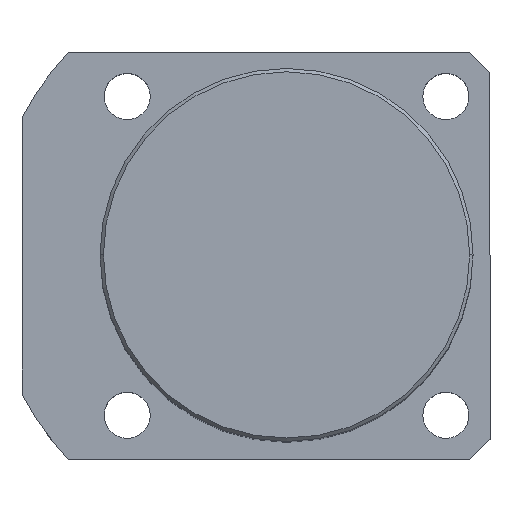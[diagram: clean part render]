
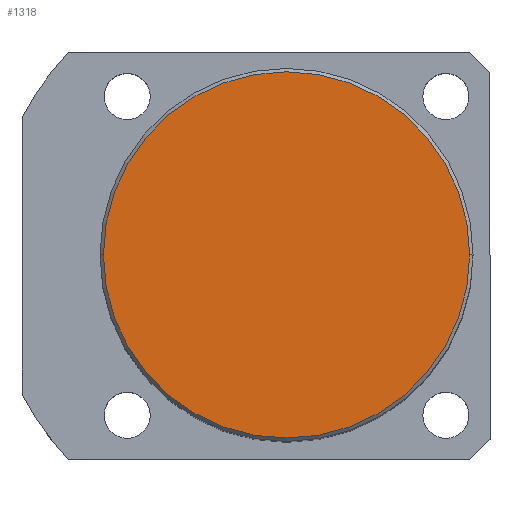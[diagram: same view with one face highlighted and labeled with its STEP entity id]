
A CAD part, top view. The second image highlights one B-rep face of the part: STEP entity #1318.
In plain terms, the highlighted planar face has unit normal (0, 0, 1).
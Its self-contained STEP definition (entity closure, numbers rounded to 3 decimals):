
#236 = EDGE_CURVE ( 'NONE', #544, #490, #595, .T. ) ;
#277 = ORIENTED_EDGE ( 'NONE', *, *, #2132, .T. ) ;
#416 = CARTESIAN_POINT ( 'NONE',  ( 27., 0., 90. ) ) ;
#438 = EDGE_LOOP ( 'NONE', ( #1749, #277 ) ) ;
#454 = AXIS2_PLACEMENT_3D ( 'NONE', #861, #1557, #1366 ) ;
#490 = VERTEX_POINT ( 'NONE', #416 ) ;
#544 = VERTEX_POINT ( 'NONE', #1141 ) ;
#595 = CIRCLE ( 'NONE', #2029, 27. ) ;
#614 = DIRECTION ( 'NONE',  ( 1., 0., 0. ) ) ;
#861 = CARTESIAN_POINT ( 'NONE',  ( 0., 0., 90. ) ) ;
#941 = AXIS2_PLACEMENT_3D ( 'NONE', #1452, #1957, #614 ) ;
#1020 = DIRECTION ( 'NONE',  ( 1., 0., 0. ) ) ;
#1141 = CARTESIAN_POINT ( 'NONE',  ( -27., 0., 90. ) ) ;
#1144 = CIRCLE ( 'NONE', #941, 27. ) ;
#1318 = ADVANCED_FACE ( 'NONE', ( #1511 ), #2050, .T. ) ;
#1366 = DIRECTION ( 'NONE',  ( 1., 0., 0. ) ) ;
#1452 = CARTESIAN_POINT ( 'NONE',  ( 0., 0., 90. ) ) ;
#1511 = FACE_OUTER_BOUND ( 'NONE', #438, .T. ) ;
#1557 = DIRECTION ( 'NONE',  ( 0., 0., 1. ) ) ;
#1687 = CARTESIAN_POINT ( 'NONE',  ( 0., 0., 90. ) ) ;
#1749 = ORIENTED_EDGE ( 'NONE', *, *, #236, .T. ) ;
#1957 = DIRECTION ( 'NONE',  ( 0., 0., 1. ) ) ;
#2026 = DIRECTION ( 'NONE',  ( 0., 0., 1. ) ) ;
#2029 = AXIS2_PLACEMENT_3D ( 'NONE', #1687, #2026, #1020 ) ;
#2050 = PLANE ( 'NONE',  #454 ) ;
#2132 = EDGE_CURVE ( 'NONE', #490, #544, #1144, .T. ) ;
